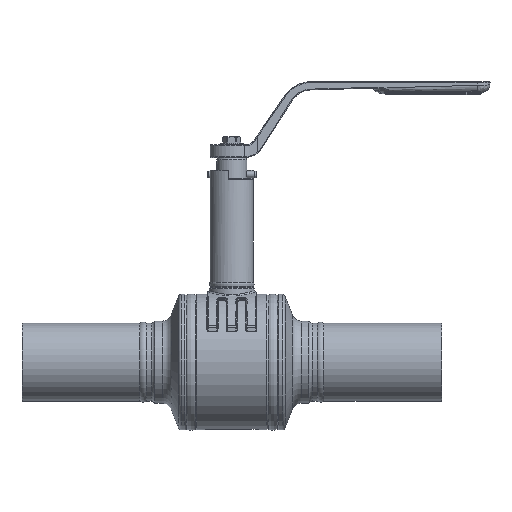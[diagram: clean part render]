
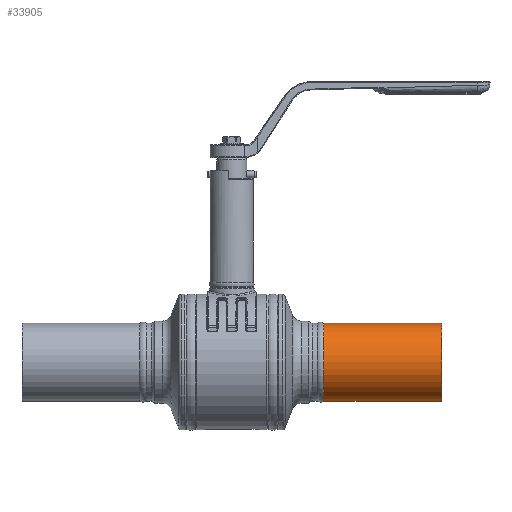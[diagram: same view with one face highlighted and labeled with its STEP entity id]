
A CAD part, front view. The second image highlights one B-rep face of the part: STEP entity #33905.
In plain terms, the highlighted cylindrical face has radius 24.15 mm (diameter 48.3 mm), a partial arc.
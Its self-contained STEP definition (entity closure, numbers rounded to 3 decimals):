
#10652=CARTESIAN_POINT('',(57.,0.,0.));
#10653=DIRECTION('',(1.,0.,0.));
#10654=DIRECTION('',(0.,0.,1.));
#10655=AXIS2_PLACEMENT_3D('',#10652,#10653,#10654);
#10662=DIRECTION('',(1.,0.,0.));
#10663=VECTOR('',#10662,73.);
#10664=CARTESIAN_POINT('',(57.,0.,-24.15));
#10665=LINE('',#10664,#10663);
#10666=DIRECTION('',(1.,0.,0.));
#10667=VECTOR('',#10666,73.);
#10668=CARTESIAN_POINT('',(57.,0.,24.15));
#10669=LINE('',#10668,#10667);
#10670=CARTESIAN_POINT('',(130.,0.,0.));
#10671=DIRECTION('',(1.,0.,0.));
#10672=DIRECTION('',(0.,0.,1.));
#10673=AXIS2_PLACEMENT_3D('',#10670,#10671,#10672);
#15621=CARTESIAN_POINT('',(130.,0.,24.15));
#15622=CARTESIAN_POINT('',(130.,0.,-24.15));
#15623=VERTEX_POINT('',#15621);
#15624=VERTEX_POINT('',#15622);
#16261=CARTESIAN_POINT('',(57.,0.,24.15));
#16262=CARTESIAN_POINT('',(57.,0.,-24.15));
#16263=VERTEX_POINT('',#16261);
#16264=VERTEX_POINT('',#16262);
#33891=CARTESIAN_POINT('',(51.25,0.,0.));
#33892=DIRECTION('',(1.,0.,0.));
#33893=DIRECTION('',(0.,0.,1.));
#33894=AXIS2_PLACEMENT_3D('',#33891,#33892,#33893);
#33895=CYLINDRICAL_SURFACE('',#33894,24.15);
#33896=ORIENTED_EDGE('',*,*,#33866,.F.);
#33898=ORIENTED_EDGE('',*,*,#33897,.T.);
#33900=ORIENTED_EDGE('',*,*,#33899,.T.);
#33902=ORIENTED_EDGE('',*,*,#33901,.F.);
#33903=EDGE_LOOP('',(#33896,#33898,#33900,#33902));
#33904=FACE_OUTER_BOUND('',#33903,.F.);
#10656=CIRCLE('',#10655,24.15);
#10674=CIRCLE('',#10673,24.15);
#33866=EDGE_CURVE('',#16263,#16264,#10656,.T.);
#33897=EDGE_CURVE('',#16263,#15623,#10669,.T.);
#33899=EDGE_CURVE('',#15623,#15624,#10674,.T.);
#33901=EDGE_CURVE('',#16264,#15624,#10665,.T.);
#33905=ADVANCED_FACE('',(#33904),#33895,.T.);
